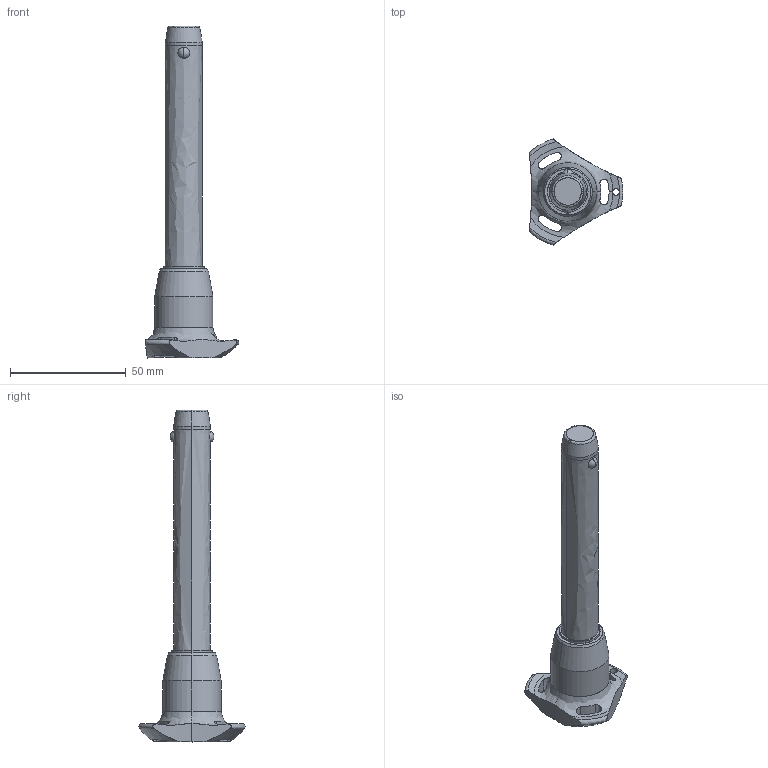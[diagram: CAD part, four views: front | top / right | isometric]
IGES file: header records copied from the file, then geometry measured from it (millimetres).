
Start section: SolidWorks IGES file using analytic representation for surfaces
Global section: file name: C:\Users\ianosborn\Desktop\33060_v2\33060.BK_v2_20240910_IGES\33060.W0897.igs; native system: SolidWorks 2019; preprocessor: SolidWorks 2019; author: IanOsborn; date: 240910.201901; units: millimetre
Bounding box: 40.5 x 45.88 x 143.7 mm (x, y, z)
Surface area: 11116.9 mm2 (no closed solid volume)
Topology: 0 solids, 0 shells, 68 faces, 1402 edges, 1398 vertices
Faces by surface type: revolution 52, bspline 16
